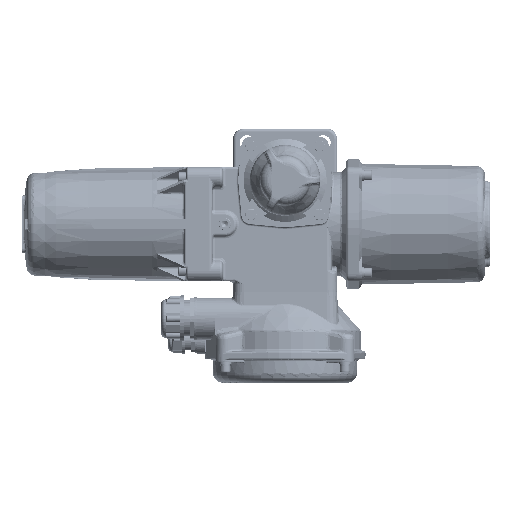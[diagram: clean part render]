
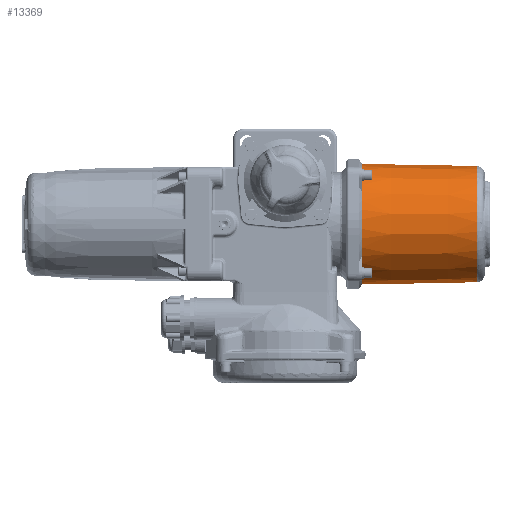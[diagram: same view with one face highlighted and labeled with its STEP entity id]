
A CAD part, top view. The second image highlights one B-rep face of the part: STEP entity #13369.
In plain terms, the highlighted conical face has half-angle 1 degrees and reference radius 56.959 mm.
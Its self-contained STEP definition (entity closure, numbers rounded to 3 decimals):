
#13369=ADVANCED_FACE('',(#52394,#52396),#52398,.T.);
#52394=FACE_BOUND('',#52395,.T.);
#52395=EDGE_LOOP('',(#85324,#85325));
#52396=FACE_BOUND('',#52397,.T.);
#52397=EDGE_LOOP('',(#85326,#85327,#85328,#85329,#85330,#85331,#85332,#85333));
#52398=CONICAL_SURFACE('',#52399,56.959,0.017);
#52399=AXIS2_PLACEMENT_3D('',#52400,#52401,#52402);
#52400=CARTESIAN_POINT('',(129.07,-42.,61.));
#52401=DIRECTION('',(-1.,0.,0.));
#52402=DIRECTION('',(0.,1.,0.));
#85324=ORIENTED_EDGE('',*,*,#102440,.F.);
#85325=ORIENTED_EDGE('',*,*,#102439,.F.);
#85326=ORIENTED_EDGE('',*,*,#102476,.T.);
#85327=ORIENTED_EDGE('',*,*,#102618,.T.);
#85328=ORIENTED_EDGE('',*,*,#102465,.T.);
#85329=ORIENTED_EDGE('',*,*,#102508,.T.);
#85330=ORIENTED_EDGE('',*,*,#102495,.T.);
#85331=ORIENTED_EDGE('',*,*,#102509,.T.);
#85332=ORIENTED_EDGE('',*,*,#102485,.T.);
#85333=ORIENTED_EDGE('',*,*,#102513,.T.);
#102439=EDGE_CURVE('',#116935,#116936,#116937,.T.);
#102440=EDGE_CURVE('',#116936,#116935,#116938,.T.);
#102465=EDGE_CURVE('',#116968,#116975,#116983,.T.);
#102476=EDGE_CURVE('',#116986,#116993,#117002,.T.);
#102485=EDGE_CURVE('',#117004,#117011,#117019,.T.);
#102495=EDGE_CURVE('',#117022,#117029,#117037,.T.);
#102508=EDGE_CURVE('',#116975,#117022,#117057,.T.);
#102509=EDGE_CURVE('',#117029,#117004,#117058,.T.);
#102513=EDGE_CURVE('',#117011,#116986,#117064,.T.);
#102618=EDGE_CURVE('',#116993,#116968,#117235,.T.);
#116935=VERTEX_POINT('',#159365);
#116936=VERTEX_POINT('',#159366);
#116937=CIRCLE('',#159367,55.998);
#116938=CIRCLE('',#159371,55.998);
#116968=VERTEX_POINT('',#159457);
#116975=VERTEX_POINT('',#159477);
#116983=CIRCLE('',#159498,57.92);
#116986=VERTEX_POINT('',#159507);
#116993=VERTEX_POINT('',#159527);
#117002=CIRCLE('',#159552,57.92);
#117004=VERTEX_POINT('',#159557);
#117011=VERTEX_POINT('',#159577);
#117019=CIRCLE('',#159598,57.92);
#117022=VERTEX_POINT('',#159607);
#117029=VERTEX_POINT('',#159627);
#117037=CIRCLE('',#159648,57.92);
#117057=CIRCLE('',#159704,57.92);
#117058=CIRCLE('',#159708,57.92);
#117064=CIRCLE('',#159726,57.92);
#117235=CIRCLE('',#160319,57.92);
#159365=CARTESIAN_POINT('',(184.14,13.998,61.));
#159366=CARTESIAN_POINT('',(184.14,-95.984,46.119));
#159367=AXIS2_PLACEMENT_3D('',#159368,#159369,#159370);
#159368=CARTESIAN_POINT('',(184.14,-42.,61.));
#159369=DIRECTION('',(1.,0.,0.));
#159370=DIRECTION('',(0.,1.,0.));
#159371=AXIS2_PLACEMENT_3D('',#159372,#159373,#159374);
#159372=CARTESIAN_POINT('',(184.14,-42.,61.));
#159373=DIRECTION('',(1.,0.,0.));
#159374=DIRECTION('',(0.,-0.964,-0.266));
#159457=CARTESIAN_POINT('',(74.,-72.899,109.99));
#159477=CARTESIAN_POINT('',(74.,-90.99,91.899));
#159498=AXIS2_PLACEMENT_3D('',#159499,#159500,#159501);
#159499=CARTESIAN_POINT('',(74.,-42.,61.));
#159500=DIRECTION('',(1.,0.,0.));
#159501=DIRECTION('',(0.,-0.533,0.846));
#159507=CARTESIAN_POINT('',(74.,6.99,91.899));
#159527=CARTESIAN_POINT('',(74.,-11.101,109.99));
#159552=AXIS2_PLACEMENT_3D('',#159553,#159554,#159555);
#159553=CARTESIAN_POINT('',(74.,-42.,61.));
#159554=DIRECTION('',(1.,0.,0.));
#159555=DIRECTION('',(0.,0.846,0.533));
#159557=CARTESIAN_POINT('',(74.,-11.101,12.01));
#159577=CARTESIAN_POINT('',(74.,6.99,30.101));
#159598=AXIS2_PLACEMENT_3D('',#159599,#159600,#159601);
#159599=CARTESIAN_POINT('',(74.,-42.,61.));
#159600=DIRECTION('',(1.,0.,0.));
#159601=DIRECTION('',(0.,0.533,-0.846));
#159607=CARTESIAN_POINT('',(74.,-90.99,30.101));
#159627=CARTESIAN_POINT('',(74.,-72.899,12.01));
#159648=AXIS2_PLACEMENT_3D('',#159649,#159650,#159651);
#159649=CARTESIAN_POINT('',(74.,-42.,61.));
#159650=DIRECTION('',(1.,0.,0.));
#159651=DIRECTION('',(0.,-0.846,-0.533));
#159704=AXIS2_PLACEMENT_3D('',#159705,#159706,#159707);
#159705=CARTESIAN_POINT('',(74.,-42.,61.));
#159706=DIRECTION('',(1.,0.,0.));
#159707=DIRECTION('',(0.,-0.846,0.533));
#159708=AXIS2_PLACEMENT_3D('',#159709,#159710,#159711);
#159709=CARTESIAN_POINT('',(74.,-42.,61.));
#159710=DIRECTION('',(1.,0.,0.));
#159711=DIRECTION('',(0.,-0.533,-0.846));
#159726=AXIS2_PLACEMENT_3D('',#159727,#159728,#159729);
#159727=CARTESIAN_POINT('',(74.,-42.,61.));
#159728=DIRECTION('',(1.,0.,0.));
#159729=DIRECTION('',(0.,0.846,-0.533));
#160319=AXIS2_PLACEMENT_3D('',#160320,#160321,#160322);
#160320=CARTESIAN_POINT('',(74.,-42.,61.));
#160321=DIRECTION('',(1.,0.,0.));
#160322=DIRECTION('',(0.,0.533,0.846));
